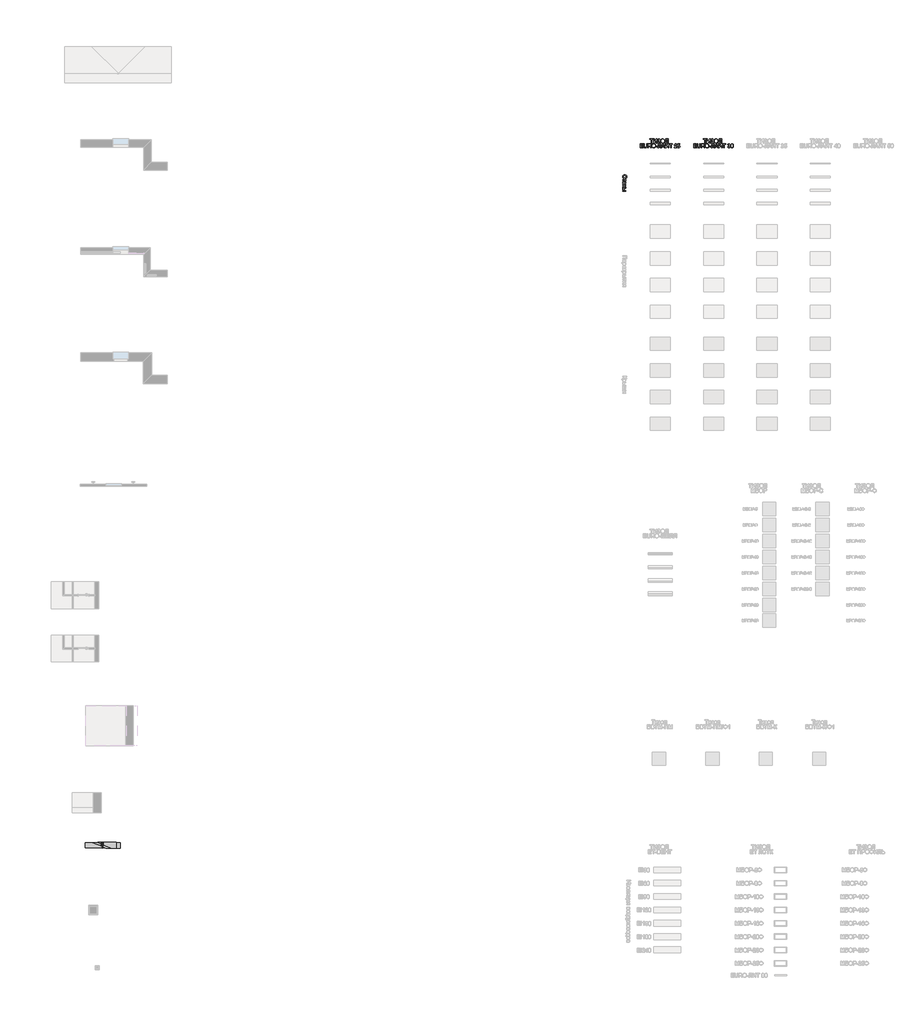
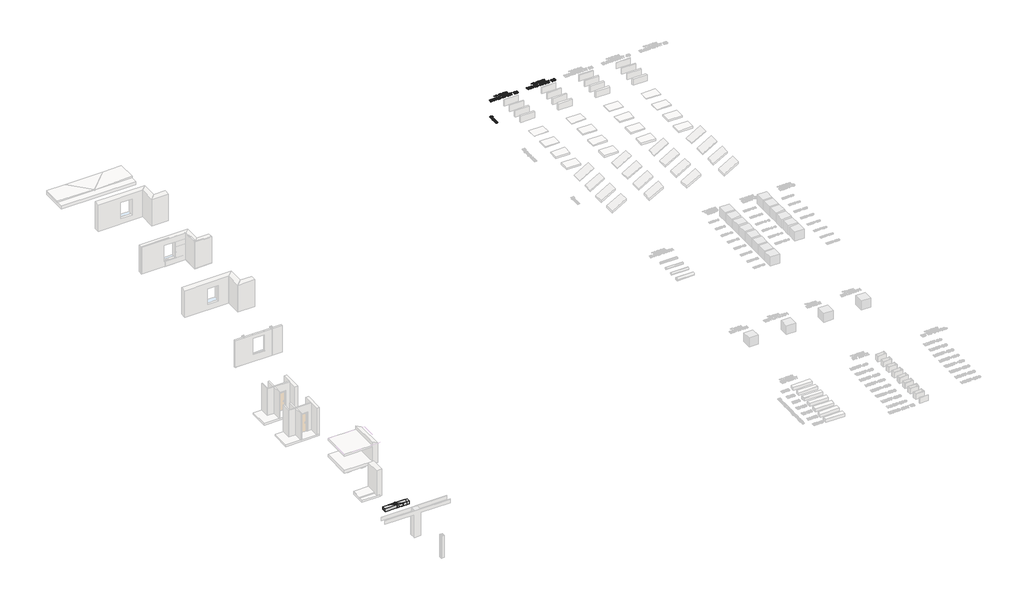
# One storey, part 29 of 35: 4 proxies.
"""IFC4 building model written with IfcOpenShell, lengths in millimetres."""

from ifc_helpers import new_model, si_unit, origin, origin_with_axes, place, context, project, spatial, polyline, outline, extrude, transform, mapped, element, save
from components import generic_models_c98b55d8

model = new_model("IFC4")

# Units and contexts
model_context = context("Model", 3, world=origin())
ifc_project = project(units=[si_unit("LENGTHUNIT", "METRE", prefix="MILLI")], contexts=[model_context])

# Site, building, storey
site = spatial("IfcSite", under=ifc_project)
building = spatial("IfcBuilding", under=site)
storey = spatial("IfcBuildingStorey", under=building, Name="Этаж 01", Elevation=0.0)

# Proxies
placement = place(None, origin())
element("IfcBuildingElementProxy", 1, Name="600 мм Arial", ObjectType="600 мм Arial", at=placement, inside=storey, context=model_context, shape_type="SweptSolid", body=[
    extrude(outline(polyline([(1312.8246338, 5315.0742808), (1312.8246338, 5578.7720949), (1213.9379535, 5578.7720949), (1213.9379535, 5616.4432112), (1449.3824304, 5616.4432112), (1449.3824304, 5578.7720949), (1350.4957501, 5578.7720949), (1350.4957501, 5315.0742808), (1312.8246338, 5315.0742808)])), origin_with_axes(), (0.0, 0.0, 1.0), 20.0),
    extrude(outline(polyline([(1491.7624363, 5616.4432112), (1529.4335526, 5616.4432112), (1529.4335526, 5377.7613727), (1687.1813521, 5616.4432112), (1727.2069132, 5616.4432112), (1727.2069132, 5315.0742808), (1689.5357969, 5315.0742808), (1689.5357969, 5553.0939316), (1532.1558793, 5315.0742808), (1491.7624363, 5315.0742808), (1491.7624363, 5616.4432112)])), origin_with_axes(), (0.0, 0.0, 1.0), 20.0),
    extrude(outline(polyline([(1779.0046981, 5399.8342925), (1816.6758144, 5409.2520715), (1824.6312626, 5388.8622119), (1839.8155919, 5368.4539583), (1861.6769795, 5353.1408702), (1889.6636023, 5348.0365075), (1918.018107, 5351.8716773), (1939.6587654, 5363.3771867), (1953.3715668, 5380.3089556), (1957.9425006, 5400.4229036), (1952.9485025, 5421.4933449), (1937.9665082, 5437.7629262), (1914.3760753, 5448.1647896), (1883.5567611, 5451.6320774), (1863.7647098, 5451.6320774), (1863.7647098, 5489.3031937), (1906.402233, 5492.3566142), (1920.2989754, 5497.7828737), (1932.4850665, 5507.9548108), (1940.9831406, 5521.3549125), (1943.8158319, 5536.4656655), (1940.0450415, 5554.2067747), (1928.7326701, 5569.4646804), (1910.9823639, 5579.9769084), (1887.8977687, 5583.4809844), (1867.0296625, 5580.7862488), (1849.4541002, 5572.702042), (1835.9896192, 5560.166463), (1827.4547569, 5544.117611), (1821.384704, 5517.5565309), (1783.7135876, 5526.97431), (1795.4168336, 5568.1770934), (1804.8311638, 5584.3639012), (1816.6206321, 5597.6076531), (1830.7852386, 5607.9083489), (1847.3249831, 5615.2659888), (1866.2398658, 5619.6805728), (1887.5298867, 5621.1521008), (1908.0416072, 5619.6230912), (1926.313846, 5615.0360626), (1942.3466032, 5607.3910149), (1956.1398788, 5596.6879481), (1967.2292217, 5583.9385377), (1975.1501809, 5570.1544592), (1979.9027564, 5555.3357126), (1981.4869483, 5539.4822978), (1979.0221389, 5519.6580568), (1971.6277108, 5502.1974576), (1959.3036639, 5487.1005002), (1942.0499984, 5474.3671847), (1963.000878, 5464.7194794), (1980.2361495, 5448.431504), (1991.76925, 5426.9012102), (1995.6136169, 5401.5265496), (1993.7696084, 5382.8956258), (1988.2375829, 5365.8511932), (1979.0175404, 5350.3932516), (1966.1094809, 5336.5218011), (1950.1571978, 5325.0783718), (1931.8044848, 5316.9044937), (1911.0513418, 5312.0001668), (1887.8977687, 5310.3653912), (1849.6932235, 5315.9571976), (1833.3362703, 5322.9469555), (1818.80953, 5332.7326165), (1806.1130026, 5345.3141808), (1795.2466882, 5360.6916482), (1779.0046981, 5399.8342925)])), origin_with_axes(), (0.0, 0.0, 1.0), 20.0),
    extrude(outline(polyline([(2033.2847332, 5461.7856204), (2035.7955278, 5497.1344817), (2043.3279116, 5528.4274439), (2055.8818847, 5555.6645071), (2073.457447, 5578.8456713), (2095.0015364, 5597.3547342), (2119.4610905, 5610.5754934), (2146.8361095, 5618.5079489), (2177.1265933, 5621.1521008), (2216.6555137, 5616.1856938), (2252.1009439, 5601.286473), (2281.5315035, 5577.502902), (2303.015812, 5545.8834445), (2316.1491993, 5507.9548108), (2320.526995, 5465.2437112), (2315.919273, 5421.9623945), (2302.096107, 5383.5003319), (2279.8208522, 5351.8256921), (2249.8568637, 5328.9066438), (2214.7149361, 5315.0007044), (2176.9058641, 5310.3653912), (2136.7699384, 5315.488148), (2101.1221731, 5330.8564184), (2071.7651899, 5355.0814477), (2050.5016105, 5386.7744816), (2037.5889525, 5423.2407844), (2033.2847332, 5461.7856204)]), holes=[polyline([(2070.9558495, 5461.4177384), (2072.8389454, 5436.4431495), (2078.4882333, 5414.2736608), (2087.9037131, 5394.9092722), (2101.0853849, 5378.3499839), (2117.108945, 5365.087838), (2135.0500901, 5355.6148766), (2154.90882, 5349.9310998), (2176.6851349, 5348.0365075), (2198.8339303, 5349.9494939), (2218.927185, 5355.688453), (2236.9648991, 5365.2533849), (2252.9470725, 5378.6442895), (2266.0321752, 5395.5530657), (2275.3786771, 5415.6716123), (2280.9865783, 5438.9999294), (2282.8558787, 5465.5380168), (2279.6553053, 5498.8865197), (2270.0535853, 5527.710074), (2254.2990388, 5551.2821128), (2232.6399864, 5568.8760692), (2206.5111677, 5579.8297556), (2177.3473225, 5583.4809844), (2156.327465, 5581.7220487), (2136.8251207, 5576.4452413), (2118.8402897, 5567.6505623), (2102.3729719, 5555.3380118), (2088.6279808, 5538.91438), (2078.8101301, 5517.7864572), (2072.9194196, 5491.9542433), (2070.9558495, 5461.4177384)])]), origin_with_axes(), (0.0, 0.0, 1.0), 20.0),
    extrude(outline(polyline([(2395.8692276, 5616.4432112), (2579.5159196, 5616.4432112), (2579.5159196, 5315.0742808), (2541.8448033, 5315.0742808), (2541.8448033, 5578.7720949), (2433.5403439, 5578.7720949), (2433.5403439, 5424.9974209), (2429.1625482, 5356.3874288), (2422.3843224, 5337.0000477), (2410.8052366, 5322.4687089), (2394.9495226, 5313.3912206), (2375.3414123, 5310.3653912), (2344.0714427, 5315.0742808), (2348.7803322, 5352.7453971), (2366.80655, 5348.0365075), (2379.5444641, 5350.5656963), (2388.6219523, 5358.1532624), (2394.0574088, 5375.1218194), (2395.8692276, 5405.7939808), (2395.8692276, 5616.4432112)])), origin_with_axes(), (0.0, 0.0, 1.0), 20.0),
    extrude(outline(polyline([(484.0600751, 4949.1498272), (484.0600751, 5250.5187577), (700.6689938, 5250.5187577), (700.6689938, 5212.8476414), (521.7311914, 5212.8476414), (521.7311914, 5123.3787401), (691.2512148, 5123.3787401), (691.2512148, 5085.7076238), (521.7311914, 5085.7076238), (521.7311914, 4986.8209435), (705.3778834, 4986.8209435), (705.3778834, 4949.1498272), (484.0600751, 4949.1498272)])), origin_with_axes(), (0.0, 0.0, 1.0), 20.0),
    extrude(outline(polyline([(959.6579184, 5250.5187577), (997.3290348, 5250.5187577), (997.3290348, 5076.6577268), (994.7722549, 5035.9423869), (987.1019153, 5004.5896439), (972.7729116, 4980.4014027), (950.2401394, 4961.1795685), (919.4484164, 4948.6255954), (880.3425603, 4944.4409377), (842.0920298, 4948.0829694), (811.511839, 4959.0090647), (788.5927907, 4976.8421444), (773.3256879, 5001.2051295), (764.7448404, 5033.8822478), (761.8845578, 5076.6577268), (761.8845578, 5250.5187577), (799.5556741, 5250.5187577), (799.5556741, 5077.9821019), (801.4134782, 5044.1277613), (806.9868905, 5020.5557225), (817.0852512, 5004.230959), (832.5179009, 4992.1184443), (852.6410461, 4984.6136516), (876.8108931, 4982.112054), (915.1258029, 4987.0600668), (929.4686022, 4993.2450829), (940.6016311, 5001.9041053), (948.9387568, 5014.0809994), (954.8938466, 5030.8196302), (959.6579184, 5077.9821019), (959.6579184, 5250.5187577)])), origin_with_axes(), (0.0, 0.0, 1.0), 20.0),
    extrude(outline(polyline([(1063.2534883, 4949.1498272), (1063.2534883, 5250.5187577), (1193.1158326, 5250.5187577), (1228.0186369, 5248.4862097), (1253.4116916, 5242.3885656), (1271.9713383, 5231.1313765), (1286.3739184, 5213.6201936), (1295.6169535, 5191.9059588), (1298.6979652, 5168.0396144), (1293.5936025, 5138.3515373), (1278.2805145, 5113.7402319), (1266.6807353, 5103.710849), (1252.2988486, 5095.69562), (1215.1887523, 5085.7076238), (1236.5994844, 5069.5943925), (1267.13369, 5030.8196302), (1317.3863706, 4949.1498272), (1273.6084131, 4949.1498272), (1234.3921924, 5011.61619), (1206.0652788, 5052.9661263), (1186.1628629, 5072.5006602), (1168.2470097, 5079.6743591), (1146.3948192, 5080.9987343), (1100.9246046, 5080.9987343), (1100.9246046, 4949.1498272), (1063.2534883, 4949.1498272)]), holes=[polyline([(1100.9246046, 5118.6698506), (1185.2431579, 5118.6698506), (1209.4589902, 5120.0034228), (1228.2485631, 5124.0041395), (1242.3936258, 5130.9387151), (1252.6759276, 5141.0738641), (1258.9391186, 5153.3335316), (1261.0268489, 5166.6416628), (1257.0445263, 5185.0173684), (1245.0975585, 5199.8246187), (1224.542152, 5209.5918857), (1194.7345134, 5212.8476414), (1100.9246046, 5212.8476414), (1100.9246046, 5118.6698506)])]), origin_with_axes(), (0.0, 0.0, 1.0), 20.0),
    extrude(outline(polyline([(1350.4957501, 5095.8611669), (1353.0065447, 5131.2100281), (1360.5389286, 5162.5029903), (1373.0929017, 5189.7400536), (1390.668464, 5212.9212178), (1412.2125533, 5231.4302807), (1436.6721075, 5244.6510399), (1464.0471265, 5252.5834954), (1494.3376102, 5255.2276472), (1533.8665306, 5250.2612403), (1569.3119609, 5235.3620195), (1598.7425205, 5211.5784485), (1620.226829, 5179.958991), (1633.3602162, 5142.0303573), (1637.738012, 5099.3192577), (1633.13029, 5056.0379409), (1619.307124, 5017.5758783), (1597.0318692, 4985.9012385), (1567.0678807, 4962.9821902), (1531.9259531, 4949.0762508), (1494.116881, 4944.4409377), (1453.9809554, 4949.5636945), (1418.33319, 4964.9319648), (1388.9762068, 4989.1569942), (1367.7126275, 5020.8500281), (1354.7999695, 5057.3163309), (1350.4957501, 5095.8611669)]), holes=[polyline([(1388.1668664, 5095.4932849), (1390.0499624, 5070.518696), (1395.6992503, 5048.3492072), (1405.1147301, 5028.9848187), (1418.2964018, 5012.4255304), (1434.319962, 4999.1633845), (1452.261107, 4989.6904231), (1472.119837, 4984.0066463), (1493.8961518, 4982.112054), (1516.0449472, 4984.0250404), (1536.1382019, 4989.7639995), (1554.175916, 4999.3289314), (1570.1580894, 5012.719836), (1583.2431922, 5029.6286122), (1592.5896941, 5049.7471588), (1598.1975953, 5073.0754758), (1600.0668957, 5099.6135633), (1596.8663223, 5132.9620661), (1587.2646022, 5161.7856204), (1571.5100558, 5185.3576593), (1549.8510033, 5202.9516157), (1523.7221846, 5213.9053021), (1494.5583394, 5217.5565309), (1473.5384819, 5215.7975951), (1454.0361377, 5210.5207878), (1436.0513066, 5201.7261088), (1419.5839888, 5189.4135583), (1405.8389978, 5172.9899265), (1396.021147, 5151.8620036), (1390.1304366, 5126.0297898), (1388.1668664, 5095.4932849)])]), origin_with_axes(), (0.0, 0.0, 1.0), 20.0),
    extrude(outline(polyline([(1665.9913492, 5038.6187285), (1665.9913492, 5076.2898448), (1783.7135876, 5076.2898448), (1783.7135876, 5038.6187285), (1665.9913492, 5038.6187285)])), origin_with_axes(), (0.0, 0.0, 1.0), 20.0),
    extrude(outline(polyline([(1854.3469307, 5250.5187577), (2037.9936227, 5250.5187577), (2037.9936227, 4949.1498272), (2000.3225064, 4949.1498272), (2000.3225064, 5212.8476414), (1892.018047, 5212.8476414), (1892.018047, 5059.0729674), (1887.6402513, 4990.4629753), (1880.8620255, 4971.0755941), (1869.2829397, 4956.5442553), (1853.4272257, 4947.4667671), (1833.8191154, 4944.4409377), (1802.5491458, 4949.1498272), (1807.2580353, 4986.8209435), (1825.2842531, 4982.112054), (1838.0221672, 4984.6412427), (1847.0996554, 4992.2288089), (1852.5351119, 5009.1973659), (1854.3469307, 5039.8695272), (1854.3469307, 5250.5187577)])), origin_with_axes(), (0.0, 0.0, 1.0), 20.0),
    extrude(outline(polyline([(2068.8221339, 4949.1498272), (2189.1195463, 5250.5187577), (2221.1988563, 5250.5187577), (2341.4962687, 4949.1498272), (2301.6914369, 4949.1498272), (2267.1841057, 5043.327618), (2143.0607205, 5043.327618), (2108.6269658, 4949.1498272), (2068.8221339, 4949.1498272)]), holes=[polyline([(2156.8930836, 5080.9987343), (2253.4253191, 5080.9987343), (2226.2756278, 5155.0901681), (2205.1592013, 5212.8476414), (2186.3972196, 5161.5648912), (2156.8930836, 5080.9987343)])]), origin_with_axes(), (0.0, 0.0, 1.0), 20.0),
    extrude(outline(polyline([(2381.742559, 5250.5187577), (2419.4136753, 5250.5187577), (2419.4136753, 5011.8369192), (2577.1614748, 5250.5187577), (2617.1870359, 5250.5187577), (2617.1870359, 4949.1498272), (2579.5159196, 4949.1498272), (2579.5159196, 5187.1694781), (2422.1360021, 4949.1498272), (2381.742559, 4949.1498272), (2381.742559, 5250.5187577)])), origin_with_axes(), (0.0, 0.0, 1.0), 20.0),
    extrude(outline(polyline([(2532.4270242, 5325.8609903), (2560.6803615, 5325.8609903), (2554.6011115, 5301.7371285), (2542.3966263, 5283.959231), (2524.6187289, 5273.0055446), (2501.8192422, 5269.3543158), (2477.0791781, 5272.9779535), (2457.894132, 5283.8488664), (2444.7791389, 5301.5991727), (2438.2492335, 5325.8609903), (2466.5025707, 5325.8609903), (2470.4756962, 5313.45417), (2477.0975722, 5304.6341992), (2486.4049866, 5299.3642896), (2498.4347279, 5297.6076531), (2512.0095735, 5299.3091073), (2521.8320228, 5304.41347), (2528.4538987, 5313.1782585), (2532.4270242, 5325.8609903)])), origin_with_axes(), (0.0, 0.0, 1.0), 20.0),
    extrude(outline(polyline([(2758.4537221, 4949.1498272), (2758.4537221, 5212.8476414), (2659.5670418, 5212.8476414), (2659.5670418, 5250.5187577), (2895.0115187, 5250.5187577), (2895.0115187, 5212.8476414), (2796.1248384, 5212.8476414), (2796.1248384, 4949.1498272), (2758.4537221, 4949.1498272)])), origin_with_axes(), (0.0, 0.0, 1.0), 20.0),
    extrude(outline(polyline([(3234.0515654, 4986.8209435), (3234.0515654, 4949.1498272), (3036.2782048, 4949.1498272), (3040.3249068, 4975.1222961), (3049.6139271, 4995.4201852), (3063.2071669, 5015.111069), (3082.8704595, 5035.7216577), (3110.3696387, 5058.7786618), (3151.0205991, 5094.8862796), (3175.4111754, 5121.5393302), (3187.6064635, 5143.1707915), (3191.6715596, 5164.2136416), (3187.8363898, 5183.0767909), (3176.3308804, 5198.757761), (3158.6449535, 5209.3251713), (3136.2685311, 5212.8476414), (3112.7700687, 5209.4079447), (3094.5139247, 5199.0888548), (3082.7325038, 5182.6997119), (3078.6582107, 5161.0498565), (3040.9870944, 5165.758746), (3050.1197649, 5202.1974576), (3058.6661235, 5216.7333949), (3069.865831, 5228.81372), (3083.46137, 5238.309674), (3099.195223, 5245.0924983), (3137.0778715, 5250.5187577), (3157.2676952, 5249.0104415), (3175.2364315, 5244.485493), (3190.9840801, 5236.9439121), (3204.5106412, 5226.3856988), (3215.3746564, 5213.5926024), (3223.1346672, 5199.3463721), (3227.7906737, 5183.647008), (3229.3426759, 5166.49451), (3227.6688128, 5148.4774893), (3222.6472236, 5130.7731682), (3213.7352822, 5112.7653446), (3200.3903629, 5093.8378159), (3179.1175865, 5071.2406644), (3146.4220742, 5042.223972), (3103.0855751, 5005.9875955), (3086.089427, 4986.8209435), (3234.0515654, 4986.8209435)])), origin_with_axes(), (0.0, 0.0, 1.0), 20.0),
    extrude(outline(polyline([(3271.7226817, 5029.2009494), (3309.393798, 5033.9098389), (3316.3099796, 5011.2942933), (3328.376509, 4995.0982884), (3345.5382041, 4985.3586126), (3367.7398825, 4982.112054), (3394.7424209, 4986.6278055), (3414.9759307, 5000.17506), (3427.6126772, 5021.1903189), (3431.824926, 5048.1100839), (3427.8793916, 5073.4571534), (3416.0427884, 5092.8445345), (3396.223146, 5105.1501873), (3368.3284937, 5109.2520715), (3350.0539556, 5107.6149967), (3335.2559023, 5102.703772), (3314.1026876, 5085.7076238), (3276.4315713, 5090.4165134), (3309.393798, 5245.8098681), (3455.3693737, 5245.8098681), (3455.3693737, 5208.1387518), (3339.8544272, 5208.1387518), (3323.7411959, 5125.1445737), (3350.6517638, 5141.4785343), (3378.8499187, 5146.9231878), (3397.195734, 5145.2355292), (3414.0470286, 5140.1725532), (3429.4038027, 5131.73426), (3443.2660561, 5119.9206494), (3454.7416751, 5105.4536899), (3462.9385458, 5089.05535), (3467.8566682, 5070.7256296), (3469.4960423, 5050.4645287), (3463.5915363, 5012.7934124), (3456.2109038, 4995.9995993), (3445.8780183, 4980.5669496), (3430.2246394, 4964.7618194), (3411.9592983, 4953.4724407), (3391.0819951, 4946.6988134), (3367.5927297, 4944.4409377), (3330.592998, 4950.2442762), (3314.9143272, 4957.4984493), (3301.1164532, 4967.6542916), (3289.6362356, 4980.2059654), (3280.9105346, 4994.647633), (3271.7226817, 5029.2009494)])), origin_with_axes(), (0.0, 0.0, 1.0), 20.0),
])
element("IfcBuildingElementProxy", 2, Name="600 мм Arial", ObjectType="600 мм Arial", at=placement, inside=storey, context=model_context, shape_type="SweptSolid", body=[
    extrude(outline(polyline([(5312.8246338, 5315.0742808), (5312.8246338, 5578.7720949), (5213.9379535, 5578.7720949), (5213.9379535, 5616.4432112), (5449.3824304, 5616.4432112), (5449.3824304, 5578.7720949), (5350.4957501, 5578.7720949), (5350.4957501, 5315.0742808), (5312.8246338, 5315.0742808)])), origin_with_axes(), (0.0, 0.0, 1.0), 20.0),
    extrude(outline(polyline([(5491.7624363, 5616.4432112), (5529.4335526, 5616.4432112), (5529.4335526, 5377.7613727), (5687.1813521, 5616.4432112), (5727.2069132, 5616.4432112), (5727.2069132, 5315.0742808), (5689.5357969, 5315.0742808), (5689.5357969, 5553.0939316), (5532.1558793, 5315.0742808), (5491.7624363, 5315.0742808), (5491.7624363, 5616.4432112)])), origin_with_axes(), (0.0, 0.0, 1.0), 20.0),
    extrude(outline(polyline([(5779.0046981, 5399.8342925), (5816.6758144, 5409.2520715), (5824.6312626, 5388.8622119), (5839.8155919, 5368.4539583), (5861.6769795, 5353.1408702), (5889.6636023, 5348.0365075), (5918.018107, 5351.8716773), (5939.6587654, 5363.3771867), (5953.3715668, 5380.3089556), (5957.9425006, 5400.4229036), (5952.9485025, 5421.4933449), (5937.9665082, 5437.7629262), (5914.3760753, 5448.1647896), (5883.5567611, 5451.6320774), (5863.7647098, 5451.6320774), (5863.7647098, 5489.3031937), (5906.402233, 5492.3566142), (5920.2989754, 5497.7828737), (5932.4850665, 5507.9548108), (5940.9831406, 5521.3549125), (5943.8158319, 5536.4656655), (5940.0450415, 5554.2067747), (5928.7326701, 5569.4646804), (5910.9823639, 5579.9769084), (5887.8977687, 5583.4809844), (5867.0296625, 5580.7862488), (5849.4541002, 5572.702042), (5835.9896192, 5560.166463), (5827.4547569, 5544.117611), (5821.384704, 5517.5565309), (5783.7135876, 5526.97431), (5795.4168336, 5568.1770934), (5804.8311638, 5584.3639012), (5816.6206321, 5597.6076531), (5830.7852386, 5607.9083489), (5847.3249831, 5615.2659888), (5866.2398658, 5619.6805728), (5887.5298867, 5621.1521008), (5908.0416072, 5619.6230912), (5926.313846, 5615.0360626), (5942.3466032, 5607.3910149), (5956.1398788, 5596.6879481), (5967.2292217, 5583.9385377), (5975.1501809, 5570.1544592), (5979.9027564, 5555.3357126), (5981.4869483, 5539.4822978), (5979.0221389, 5519.6580568), (5971.6277108, 5502.1974576), (5959.3036639, 5487.1005002), (5942.0499984, 5474.3671847), (5963.000878, 5464.7194794), (5980.2361495, 5448.431504), (5991.76925, 5426.9012102), (5995.6136169, 5401.5265496), (5993.7696084, 5382.8956258), (5988.2375829, 5365.8511932), (5979.0175404, 5350.3932516), (5966.1094809, 5336.5218011), (5950.1571978, 5325.0783718), (5931.8044848, 5316.9044937), (5911.0513418, 5312.0001668), (5887.8977687, 5310.3653912), (5849.6932235, 5315.9571976), (5833.3362703, 5322.9469555), (5818.80953, 5332.7326165), (5806.1130026, 5345.3141808), (5795.2466882, 5360.6916482), (5779.0046981, 5399.8342925)])), origin_with_axes(), (0.0, 0.0, 1.0), 20.0),
    extrude(outline(polyline([(6033.2847332, 5461.7856204), (6035.7955278, 5497.1344817), (6043.3279116, 5528.4274439), (6055.8818847, 5555.6645071), (6073.457447, 5578.8456713), (6095.0015364, 5597.3547342), (6119.4610905, 5610.5754934), (6146.8361095, 5618.5079489), (6177.1265933, 5621.1521008), (6216.6555137, 5616.1856938), (6252.1009439, 5601.286473), (6281.5315035, 5577.502902), (6303.015812, 5545.8834445), (6316.1491993, 5507.9548108), (6320.526995, 5465.2437112), (6315.919273, 5421.9623945), (6302.096107, 5383.5003319), (6279.8208522, 5351.8256921), (6249.8568637, 5328.9066438), (6214.7149361, 5315.0007044), (6176.9058641, 5310.3653912), (6136.7699384, 5315.488148), (6101.1221731, 5330.8564184), (6071.7651899, 5355.0814477), (6050.5016105, 5386.7744816), (6037.5889525, 5423.2407844), (6033.2847332, 5461.7856204)]), holes=[polyline([(6070.9558495, 5461.4177384), (6072.8389454, 5436.4431495), (6078.4882333, 5414.2736608), (6087.9037131, 5394.9092722), (6101.0853849, 5378.3499839), (6117.108945, 5365.087838), (6135.0500901, 5355.6148766), (6154.90882, 5349.9310998), (6176.6851349, 5348.0365075), (6198.8339303, 5349.9494939), (6218.927185, 5355.688453), (6236.9648991, 5365.2533849), (6252.9470725, 5378.6442895), (6266.0321752, 5395.5530657), (6275.3786771, 5415.6716123), (6280.9865783, 5438.9999294), (6282.8558787, 5465.5380168), (6279.6553053, 5498.8865197), (6270.0535853, 5527.710074), (6254.2990388, 5551.2821128), (6232.6399864, 5568.8760692), (6206.5111677, 5579.8297556), (6177.3473225, 5583.4809844), (6156.327465, 5581.7220487), (6136.8251207, 5576.4452413), (6118.8402897, 5567.6505623), (6102.3729719, 5555.3380118), (6088.6279808, 5538.91438), (6078.8101301, 5517.7864572), (6072.9194196, 5491.9542433), (6070.9558495, 5461.4177384)])]), origin_with_axes(), (0.0, 0.0, 1.0), 20.0),
    extrude(outline(polyline([(6395.8692276, 5616.4432112), (6579.5159196, 5616.4432112), (6579.5159196, 5315.0742808), (6541.8448033, 5315.0742808), (6541.8448033, 5578.7720949), (6433.5403439, 5578.7720949), (6433.5403439, 5424.9974209), (6429.1625482, 5356.3874288), (6422.3843224, 5337.0000477), (6410.8052366, 5322.4687089), (6394.9495226, 5313.3912206), (6375.3414123, 5310.3653912), (6344.0714427, 5315.0742808), (6348.7803322, 5352.7453971), (6366.80655, 5348.0365075), (6379.5444641, 5350.5656963), (6388.6219523, 5358.1532624), (6394.0574088, 5375.1218194), (6395.8692276, 5405.7939808), (6395.8692276, 5616.4432112)])), origin_with_axes(), (0.0, 0.0, 1.0), 20.0),
    extrude(outline(polyline([(4484.0600751, 4949.1498272), (4484.0600751, 5250.5187577), (4700.6689938, 5250.5187577), (4700.6689938, 5212.8476414), (4521.7311914, 5212.8476414), (4521.7311914, 5123.3787401), (4691.2512148, 5123.3787401), (4691.2512148, 5085.7076238), (4521.7311914, 5085.7076238), (4521.7311914, 4986.8209435), (4705.3778834, 4986.8209435), (4705.3778834, 4949.1498272), (4484.0600751, 4949.1498272)])), origin_with_axes(), (0.0, 0.0, 1.0), 20.0),
    extrude(outline(polyline([(4959.6579184, 5250.5187577), (4997.3290348, 5250.5187577), (4997.3290348, 5076.6577268), (4994.7722549, 5035.9423869), (4987.1019153, 5004.5896439), (4972.7729116, 4980.4014027), (4950.2401394, 4961.1795685), (4919.4484164, 4948.6255954), (4880.3425603, 4944.4409377), (4842.0920298, 4948.0829694), (4811.511839, 4959.0090647), (4788.5927907, 4976.8421444), (4773.3256879, 5001.2051295), (4764.7448404, 5033.8822478), (4761.8845578, 5076.6577268), (4761.8845578, 5250.5187577), (4799.5556741, 5250.5187577), (4799.5556741, 5077.9821019), (4801.4134782, 5044.1277613), (4806.9868905, 5020.5557225), (4817.0852512, 5004.230959), (4832.5179009, 4992.1184443), (4852.6410461, 4984.6136516), (4876.8108931, 4982.112054), (4915.1258029, 4987.0600668), (4929.4686022, 4993.2450829), (4940.6016311, 5001.9041053), (4948.9387568, 5014.0809994), (4954.8938466, 5030.8196302), (4959.6579184, 5077.9821019), (4959.6579184, 5250.5187577)])), origin_with_axes(), (0.0, 0.0, 1.0), 20.0),
    extrude(outline(polyline([(5063.2534883, 4949.1498272), (5063.2534883, 5250.5187577), (5193.1158326, 5250.5187577), (5228.0186369, 5248.4862097), (5253.4116916, 5242.3885656), (5271.9713383, 5231.1313765), (5286.3739184, 5213.6201936), (5295.6169535, 5191.9059588), (5298.6979652, 5168.0396144), (5293.5936025, 5138.3515373), (5278.2805145, 5113.7402319), (5266.6807353, 5103.710849), (5252.2988486, 5095.69562), (5215.1887523, 5085.7076238), (5236.5994844, 5069.5943925), (5267.13369, 5030.8196302), (5317.3863706, 4949.1498272), (5273.6084131, 4949.1498272), (5234.3921924, 5011.61619), (5206.0652788, 5052.9661263), (5186.1628629, 5072.5006602), (5168.2470097, 5079.6743591), (5146.3948192, 5080.9987343), (5100.9246046, 5080.9987343), (5100.9246046, 4949.1498272), (5063.2534883, 4949.1498272)]), holes=[polyline([(5100.9246046, 5118.6698506), (5185.2431579, 5118.6698506), (5209.4589902, 5120.0034228), (5228.2485631, 5124.0041395), (5242.3936258, 5130.9387151), (5252.6759276, 5141.0738641), (5258.9391186, 5153.3335316), (5261.0268489, 5166.6416628), (5257.0445263, 5185.0173684), (5245.0975585, 5199.8246187), (5224.542152, 5209.5918857), (5194.7345134, 5212.8476414), (5100.9246046, 5212.8476414), (5100.9246046, 5118.6698506)])]), origin_with_axes(), (0.0, 0.0, 1.0), 20.0),
    extrude(outline(polyline([(5350.4957501, 5095.8611669), (5353.0065447, 5131.2100281), (5360.5389286, 5162.5029903), (5373.0929017, 5189.7400536), (5390.668464, 5212.9212178), (5412.2125533, 5231.4302807), (5436.6721075, 5244.6510399), (5464.0471265, 5252.5834954), (5494.3376102, 5255.2276472), (5533.8665306, 5250.2612403), (5569.3119609, 5235.3620195), (5598.7425205, 5211.5784485), (5620.226829, 5179.958991), (5633.3602162, 5142.0303573), (5637.738012, 5099.3192577), (5633.13029, 5056.0379409), (5619.307124, 5017.5758783), (5597.0318692, 4985.9012385), (5567.0678807, 4962.9821902), (5531.9259531, 4949.0762508), (5494.116881, 4944.4409377), (5453.9809554, 4949.5636945), (5418.33319, 4964.9319648), (5388.9762068, 4989.1569942), (5367.7126275, 5020.8500281), (5354.7999695, 5057.3163309), (5350.4957501, 5095.8611669)]), holes=[polyline([(5388.1668664, 5095.4932849), (5390.0499624, 5070.518696), (5395.6992503, 5048.3492072), (5405.1147301, 5028.9848187), (5418.2964018, 5012.4255304), (5434.319962, 4999.1633845), (5452.261107, 4989.6904231), (5472.119837, 4984.0066463), (5493.8961518, 4982.112054), (5516.0449472, 4984.0250404), (5536.1382019, 4989.7639995), (5554.175916, 4999.3289314), (5570.1580894, 5012.719836), (5583.2431922, 5029.6286122), (5592.5896941, 5049.7471588), (5598.1975953, 5073.0754758), (5600.0668957, 5099.6135633), (5596.8663223, 5132.9620661), (5587.2646022, 5161.7856204), (5571.5100558, 5185.3576593), (5549.8510033, 5202.9516157), (5523.7221846, 5213.9053021), (5494.5583394, 5217.5565309), (5473.5384819, 5215.7975951), (5454.0361377, 5210.5207878), (5436.0513066, 5201.7261088), (5419.5839888, 5189.4135583), (5405.8389978, 5172.9899265), (5396.021147, 5151.8620036), (5390.1304366, 5126.0297898), (5388.1668664, 5095.4932849)])]), origin_with_axes(), (0.0, 0.0, 1.0), 20.0),
    extrude(outline(polyline([(5665.9913492, 5038.6187285), (5665.9913492, 5076.2898448), (5783.7135876, 5076.2898448), (5783.7135876, 5038.6187285), (5665.9913492, 5038.6187285)])), origin_with_axes(), (0.0, 0.0, 1.0), 20.0),
    extrude(outline(polyline([(5854.3469307, 5250.5187577), (6037.9936227, 5250.5187577), (6037.9936227, 4949.1498272), (6000.3225064, 4949.1498272), (6000.3225064, 5212.8476414), (5892.018047, 5212.8476414), (5892.018047, 5059.0729674), (5887.6402513, 4990.4629753), (5880.8620255, 4971.0755941), (5869.2829397, 4956.5442553), (5853.4272257, 4947.4667671), (5833.8191154, 4944.4409377), (5802.5491458, 4949.1498272), (5807.2580353, 4986.8209435), (5825.2842531, 4982.112054), (5838.0221672, 4984.6412427), (5847.0996554, 4992.2288089), (5852.5351119, 5009.1973659), (5854.3469307, 5039.8695272), (5854.3469307, 5250.5187577)])), origin_with_axes(), (0.0, 0.0, 1.0), 20.0),
    extrude(outline(polyline([(6068.8221339, 4949.1498272), (6189.1195463, 5250.5187577), (6221.1988563, 5250.5187577), (6341.4962687, 4949.1498272), (6301.6914369, 4949.1498272), (6267.1841057, 5043.327618), (6143.0607205, 5043.327618), (6108.6269658, 4949.1498272), (6068.8221339, 4949.1498272)]), holes=[polyline([(6156.8930836, 5080.9987343), (6253.4253191, 5080.9987343), (6226.2756278, 5155.0901681), (6205.1592013, 5212.8476414), (6186.3972196, 5161.5648912), (6156.8930836, 5080.9987343)])]), origin_with_axes(), (0.0, 0.0, 1.0), 20.0),
    extrude(outline(polyline([(6381.742559, 5250.5187577), (6419.4136753, 5250.5187577), (6419.4136753, 5011.8369192), (6577.1614748, 5250.5187577), (6617.1870359, 5250.5187577), (6617.1870359, 4949.1498272), (6579.5159196, 4949.1498272), (6579.5159196, 5187.1694781), (6422.1360021, 4949.1498272), (6381.742559, 4949.1498272), (6381.742559, 5250.5187577)])), origin_with_axes(), (0.0, 0.0, 1.0), 20.0),
    extrude(outline(polyline([(6532.4270242, 5325.8609903), (6560.6803615, 5325.8609903), (6554.6011115, 5301.7371285), (6542.3966263, 5283.959231), (6524.6187289, 5273.0055446), (6501.8192422, 5269.3543158), (6477.0791781, 5272.9779535), (6457.894132, 5283.8488664), (6444.7791389, 5301.5991727), (6438.2492335, 5325.8609903), (6466.5025707, 5325.8609903), (6470.4756962, 5313.45417), (6477.0975722, 5304.6341992), (6486.4049866, 5299.3642896), (6498.4347279, 5297.6076531), (6512.0095735, 5299.3091073), (6521.8320228, 5304.41347), (6528.4538987, 5313.1782585), (6532.4270242, 5325.8609903)])), origin_with_axes(), (0.0, 0.0, 1.0), 20.0),
    extrude(outline(polyline([(6758.4537221, 4949.1498272), (6758.4537221, 5212.8476414), (6659.5670418, 5212.8476414), (6659.5670418, 5250.5187577), (6895.0115187, 5250.5187577), (6895.0115187, 5212.8476414), (6796.1248384, 5212.8476414), (6796.1248384, 4949.1498272), (6758.4537221, 4949.1498272)])), origin_with_axes(), (0.0, 0.0, 1.0), 20.0),
    extrude(outline(polyline([(7040.9870944, 5029.2009494), (7078.6582107, 5033.9098389), (7087.0919054, 5010.2366325), (7099.4435434, 4994.2521598), (7116.3201299, 4985.1470805), (7138.3286703, 4982.112054), (7164.1539863, 4986.2875146), (7184.0931905, 4998.8138966), (7196.8403016, 5017.5023019), (7201.0893387, 5040.1638328), (7196.8770898, 5061.6757325), (7184.2403433, 5079.1225361), (7165.1104795, 5090.6832278), (7141.418879, 5094.5367917), (7115.0049518, 5090.4165134), (7119.1988065, 5128.0876297), (7125.2320713, 5127.6461713), (7147.8016317, 5130.350104), (7167.9799591, 5138.4619019), (7182.2169923, 5152.1839004), (7186.96267, 5171.7184343), (7183.5229734, 5187.9880155), (7173.2038834, 5201.1857821), (7157.458534, 5209.9321766), (7137.7400591, 5212.8476414), (7117.984796, 5209.9045854), (7101.8347764, 5201.0754175), (7090.0441584, 5186.3601377), (7083.3671002, 5165.758746), (7045.6959839, 5170.4676355), (7056.7876261, 5204.294385), (7076.5244951, 5229.549484), (7103.5270335, 5245.2764392), (7136.4156839, 5250.5187577), (7160.0980873, 5247.9343867), (7181.8491103, 5240.1812736), (7200.1880278, 5227.9491973), (7213.6341147, 5211.9279364), (7221.8838684, 5193.4694573), (7224.6337864, 5173.9257263), (7222.0218242, 5155.7155675), (7214.1859377, 5139.1976659), (7201.2364915, 5125.1261796), (7183.2838501, 5114.2552667), (7206.865086, 5104.727123), (7224.3394808, 5088.503527), (7235.1552114, 5066.4673955), (7238.760455, 5039.5016452), (7236.9578332, 5020.3901756), (7231.5499679, 5002.7870221), (7222.536859, 4986.6921848), (7209.9185065, 4972.1056637), (7194.5456377, 4960.0023461), (7177.2689795, 4951.3571192), (7158.088532, 4946.1699831), (7137.0042951, 4944.4409377), (7117.9480078, 4945.9170642), (7100.5839776, 4950.3454437), (7084.9122046, 4957.7260762), (7070.9326888, 4968.0589618), (7059.2110487, 4980.737095), (7050.3129029, 4995.1534707), (7044.2382515, 5011.3080888), (7040.9870944, 5029.2009494)])), origin_with_axes(), (0.0, 0.0, 1.0), 20.0),
    extrude(outline(polyline([(7271.7226817, 5097.4062713), (7274.4909937, 5145.6447979), (7282.7959298, 5184.1160575), (7296.5547164, 5213.4086614), (7315.6845802, 5234.1112207), (7340.3234768, 5246.4168734), (7370.609362, 5250.5187577), (7393.8227159, 5248.0907365), (7414.6080487, 5240.806673), (7431.9904729, 5228.9516757), (7444.9951015, 5212.8108532), (7454.8175507, 5192.5221611), (7462.6534372, 5168.2235554), (7467.7853911, 5137.367453), (7469.4960423, 5097.4062713), (7466.7553215, 5049.4436562), (7458.5331589, 5011.064367), (7444.8571457, 4981.744172), (7425.7548731, 4960.9588393), (7401.0607942, 4948.5704131), (7370.609362, 4944.4409377), (7349.8608175, 4946.2343624), (7331.4667178, 4951.6146366), (7315.4270628, 4960.5817602), (7301.7418525, 4973.1357333), (7288.6084653, 4995.8294539), (7279.2274744, 5024.1057837), (7273.5988799, 5057.9647229), (7271.7226817, 5097.4062713)]), holes=[polyline([(7309.393798, 5097.4798477), (7313.808382, 5038.2232553), (7319.3266119, 5017.9552566), (7327.0521338, 5003.9274563), (7346.7706088, 4987.5659046), (7370.609362, 4982.112054), (7394.4481153, 4987.5842987), (7414.1665903, 5004.0010327), (7421.8921122, 5018.0518257), (7427.4103421, 5038.3152258), (7431.824926, 5097.4798477), (7427.5574949, 5155.4028678), (7422.223206, 5175.6041879), (7414.7552015, 5189.9653813), (7395.0735147, 5207.1270763), (7370.1679036, 5212.8476414), (7346.5866678, 5207.807658), (7327.640745, 5192.687708), (7319.6577057, 5177.0527232), (7313.9555348, 5155.9730849), (7309.393798, 5097.4798477)])]), origin_with_axes(), (0.0, 0.0, 1.0), 20.0),
])
element("IfcBuildingElementProxy", 3, Name="600 мм Arial", ObjectType="600 мм Arial", at=placement, inside=storey, context=model_context, shape_type="SweptSolid", body=[
    extrude(outline(polyline([(-720.7541229, 2698.1286737), (-730.4662076, 2660.4575574), (-753.8933929, 2667.9117663), (-774.3637267, 2677.8399817), (-791.8772089, 2690.2422034), (-806.4338396, 2705.1184316), (-817.8772689, 2722.1329739), (-826.051147, 2740.9501379), (-830.9554738, 2761.5699238), (-832.5902495, 2783.9923314), (-827.6422366, 2827.6875153), (-812.7981981, 2862.3879845), (-788.5731687, 2888.9858528), (-755.4821833, 2908.3732339), (-716.5786623, 2920.2098371), (-674.9160263, 2924.1553715), (-630.972522, 2919.6948023), (-593.0254942, 2906.3130948), (-562.2797565, 2884.7092246), (-539.9401223, 2855.5821676), (-526.3376855, 2821.0380483), (-521.8035399, 2783.182991), (-527.6712578, 2741.87904), (-535.005905, 2723.9103038), (-545.2744112, 2707.7303938), (-558.2054634, 2693.6060244), (-573.5277485, 2681.8039101), (-611.3460176, 2665.1664469), (-620.3223382, 2702.8375632), (-592.8507503, 2715.8973741), (-574.005995, 2733.7396508), (-563.1074909, 2756.5851227), (-559.4746562, 2784.654519), (-563.5029641, 2817.0097404), (-575.5878876, 2843.5892146), (-594.460234, 2863.758345), (-618.8508103, 2876.8825351), (-646.4235658, 2884.0838252), (-674.8424499, 2886.4842552), (-709.6440867, 2883.6423668), (-739.7368339, 2875.1167016), (-763.9710603, 2860.5853628), (-781.1971347, 2839.7264536), (-791.4886335, 2814.719675), (-794.9191332, 2787.7447277), (-790.2470318, 2756.3000142), (-776.2307278, 2730.0976191), (-753.0173739, 2710.3147648), (-720.7541229, 2698.1286737)])), origin_with_axes(), (0.0, 0.0, 1.0), 20.0),
    extrude(outline(polyline([(-606.5635516, 2632.2042201), (-606.5635516, 2453.2664177), (-644.2346679, 2453.2664177), (-644.2346679, 2523.8997608), (-827.8813599, 2523.8997608), (-827.8813599, 2561.5708771), (-644.2346679, 2561.5708771), (-644.2346679, 2632.2042201), (-606.5635516, 2632.2042201)])), origin_with_axes(), (0.0, 0.0, 1.0), 20.0),
    extrude(outline(polyline([(-761.9569064, 2265.3522946), (-766.6657959, 2228.4169422), (-794.4960689, 2241.7250734), (-815.2997957, 2262.9610616), (-828.267636, 2291.6466602), (-832.5902495, 2327.3036225), (-830.7255476, 2350.6779248), (-825.131442, 2371.5046443), (-815.8079327, 2389.7837809), (-802.7550197, 2405.5153347), (-786.3359864, 2418.1658768), (-766.9141163, 2427.2019783), (-744.4894094, 2432.6236392), (-719.0618657, 2434.4308595), (-692.7720987, 2432.6052451), (-669.6001315, 2427.1284019), (-649.5459642, 2418.0003299), (-632.6095969, 2405.2210291), (-619.1543129, 2389.530862), (-609.5433958, 2371.6701912), (-603.7768455, 2351.6390165), (-601.8546621, 2329.4373381), (-603.772247, 2307.9507303), (-609.5250017, 2288.5196632), (-619.1129262, 2271.1441367), (-632.5360205, 2255.8241509), (-649.4355996, 2243.3184623), (-669.4529787, 2234.3858276), (-692.5881577, 2229.0262468), (-718.8411366, 2227.2397199), (-728.9946796, 2227.4604491), (-728.9946796, 2396.7597432), (-757.1928345, 2390.2390349), (-777.922985, 2375.0914937), (-790.6700961, 2353.2301062), (-794.9191332, 2326.5678586), (-792.9509645, 2306.5182898), (-787.0464585, 2289.6325062), (-776.8377331, 2275.9105078), (-761.9569064, 2265.3522946)]), holes=[polyline([(-691.3235633, 2396.7597432), (-691.3235633, 2264.9108362), (-671.4211474, 2270.0060018), (-657.1841142, 2279.993998), (-643.9403623, 2301.9565531), (-639.5257784, 2329.5844909), (-643.0482485, 2354.9775456), (-653.6156588, 2375.9744105), (-670.0875751, 2390.5701287), (-691.3235633, 2396.7597432)])]), origin_with_axes(), (0.0, 0.0, 1.0), 20.0),
    extrude(outline(polyline([(-606.5635516, 2189.5686036), (-606.5635516, 2151.8974872), (-691.3235633, 2151.8974872), (-691.3235633, 2053.0108069), (-606.5635516, 2053.0108069), (-606.5635516, 2015.3396906), (-827.8813599, 2015.3396906), (-827.8813599, 2053.0108069), (-728.9946796, 2053.0108069), (-728.9946796, 2151.8974872), (-827.8813599, 2151.8974872), (-827.8813599, 2189.5686036), (-606.5635516, 2189.5686036)])), origin_with_axes(), (0.0, 0.0, 1.0), 20.0),
    extrude(outline(polyline([(-606.5635516, 1751.6418765), (-606.5635516, 1713.9707602), (-827.8813599, 1713.9707602), (-827.8813599, 1751.6418765), (-606.5635516, 1751.6418765)])), origin_with_axes(), (0.0, 0.0, 1.0), 20.0),
    extrude(outline(polyline([(-606.5635516, 1958.8330162), (-606.5635516, 1921.1618999), (-686.6146738, 1921.1618999), (-686.6146738, 1874.5880393), (-691.3327604, 1834.332552), (-697.2303686, 1818.1158538), (-705.4870201, 1804.5065192), (-715.8176064, 1793.7390731), (-727.9370189, 1786.0480401), (-741.8452576, 1781.4334203), (-757.5423224, 1779.8952137), (-784.4988756, 1785.0547587), (-807.24318, 1800.5333937), (-816.2723837, 1812.3952887), (-822.7218149, 1827.3427941), (-827.8813599, 1866.4946354), (-827.8813599, 1958.8330162), (-606.5635516, 1958.8330162)]), holes=[polyline([(-790.2102436, 1921.1618999), (-790.2102436, 1882.460714), (-788.2328779, 1852.4599373), (-782.3007807, 1832.502339), (-772.1748288, 1821.3003323), (-757.6158988, 1817.56633), (-745.3102461, 1820.334642), (-734.4393331, 1828.6395781), (-726.8241758, 1846.3990814), (-724.2857901, 1877.5310952), (-724.2857901, 1921.1618999), (-790.2102436, 1921.1618999)])]), origin_with_axes(), (0.0, 0.0, 1.0), 20.0),
])
generic_models_shape = generic_models_c98b55d8(model_context)
element("IfcBuildingElementProxy", 4, Name="Фрагмент 3D конструкции Огнезащита Воздуховодов : Фрагмент 3D конструкции Огнезащита Воздуховодов", ObjectType="Фрагмент 3D конструкции Огнезащита Воздуховодов : Фрагмент 3D конструкции Огнезащита Воздуховодов", at=placement, inside=storey, context=model_context, shape_type="MappedRepresentation", body=[
    mapped(generic_models_shape, transform((0.0, 0.0, 0.0), x_axis=(1.0, 0.0, 0.0), y_axis=(0.0, 1.0, 0.0), z_axis=(0.0, 0.0, 1.0))),
])

save(model, "model.ifc")
